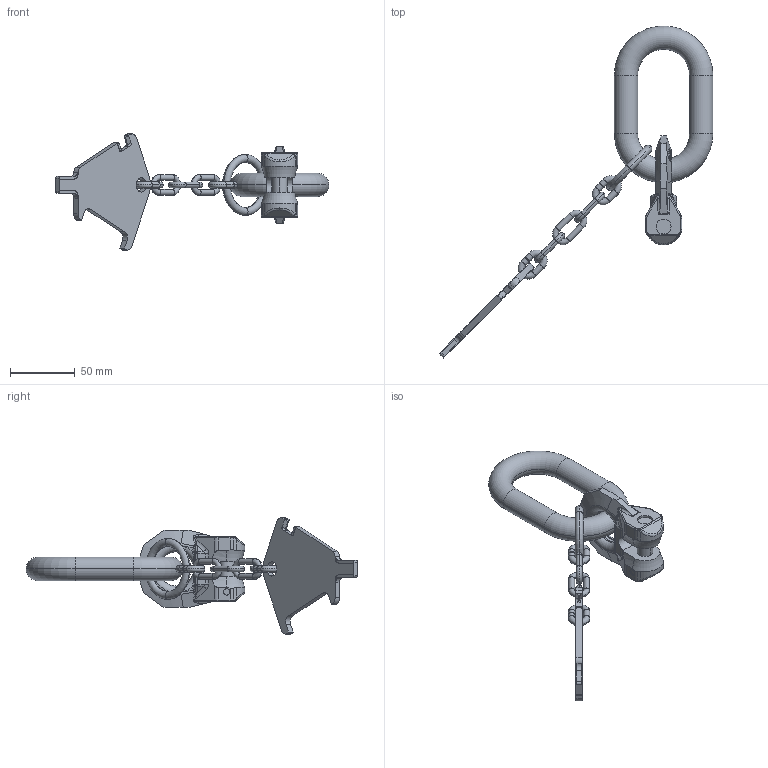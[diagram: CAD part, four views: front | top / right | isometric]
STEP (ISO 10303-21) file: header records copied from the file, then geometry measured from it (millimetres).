
FILE_DESCRIPTION((''),'2;1');
FILE_NAME('001-M34472-P-3_ASM','2014-10-14T',('Andreas.Wendler'),(''),'PRO/ENGINEER BY PARAMETRIC TECHNOLOGY CORPORATION, 2010140','PRO/ENGINEER BY PARAMETRIC TECHNOLOGY CORPORATION, 2010140','');
FILE_SCHEMA(('CONFIG_CONTROL_DESIGN'));
Length unit declared in the file: millimetre
Products named in the file (9): 001-M34472-P-3; 001-M31128-V01; 001-M31164-P-1; 001-M31129-P-1; 001-M33743-001; 001-M31130-003_ASM; 001-M31164-P-1_ASM; 001-M31127-P-3; 001-M34472-P-3_ASM
Assembly tree (11 placements, depth 4):
  001-M34472-P-3_ASM
    001-M34472-P-3
    001-M31128-V01
    001-M31164-P-1_ASM
      001-M31164-P-1
      001-M31129-P-1  x2
      001-M31130-003_ASM
        001-M33743-001  x3
    001-M31127-P-3
Bounding box: 211.24 x 256.24 x 89.55 mm (x, y, z)
Volume: 149557 mm3; surface area: 45099.6 mm2
Topology: 9 solids, 9 shells, 538 faces, 1386 edges, 868 vertices
Faces by surface type: plane 283, cylinder 128, bspline 68, torus 42, cone 17
Entity records: 18836 total; most frequent: CARTESIAN_POINT 7296, ORIENTED_EDGE 2664, DIRECTION 1952, EDGE_CURVE 1332, VERTEX_POINT 840, AXIS2_PLACEMENT_3D 727, B_SPLINE_CURVE_WITH_KNOTS 576, EDGE_LOOP 528
